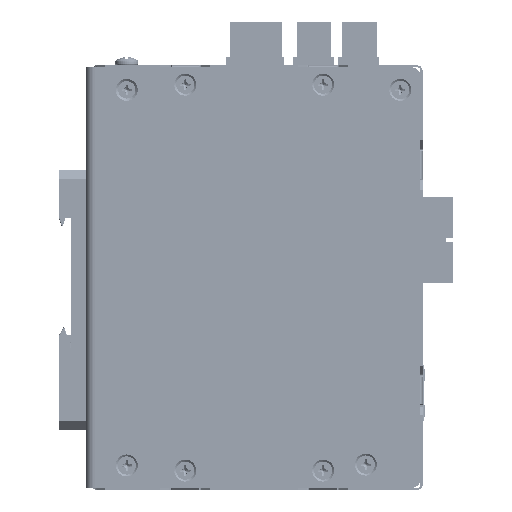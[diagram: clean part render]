
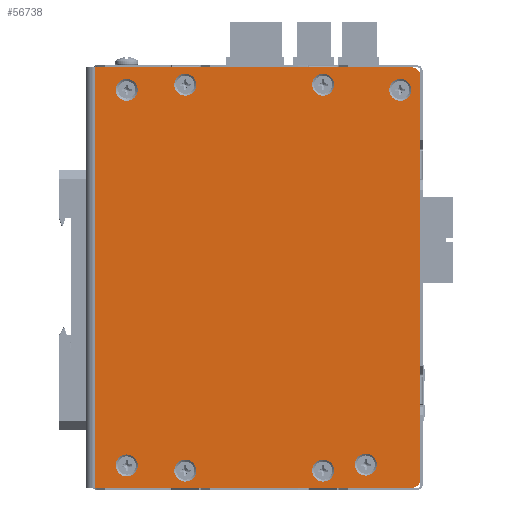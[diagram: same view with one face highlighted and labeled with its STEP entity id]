
A CAD part, left-side view. The second image highlights one B-rep face of the part: STEP entity #56738.
In plain terms, the highlighted planar face has unit normal (-1, 0, 0).
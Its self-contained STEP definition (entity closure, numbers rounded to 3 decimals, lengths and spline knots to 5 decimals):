
#2955=CIRCLE('',#61520,0.00324);
#2956=CIRCLE('',#61521,0.00324);
#2957=CIRCLE('',#61522,0.00324);
#2958=CIRCLE('',#61523,0.00324);
#2959=CIRCLE('',#61524,0.00324);
#2960=CIRCLE('',#61525,0.00324);
#2961=CIRCLE('',#61526,0.00324);
#2962=CIRCLE('',#61527,0.00324);
#2963=CIRCLE('',#61528,0.00254);
#2964=CIRCLE('',#61529,0.00254);
#8273=LINE('',#106608,#13625);
#8277=LINE('',#106617,#13629);
#8283=LINE('',#106631,#13635);
#8285=LINE('',#106653,#13637);
#13625=VECTOR('',#74817,1.);
#13629=VECTOR('',#74823,1.);
#13635=VECTOR('',#74831,1.);
#13637=VECTOR('',#74855,1.);
#28867=ORIENTED_EDGE('',*,*,#37388,.F.);
#28868=ORIENTED_EDGE('',*,*,#37389,.F.);
#28869=ORIENTED_EDGE('',*,*,#37390,.F.);
#28870=ORIENTED_EDGE('',*,*,#37391,.F.);
#28871=ORIENTED_EDGE('',*,*,#37392,.F.);
#28872=ORIENTED_EDGE('',*,*,#37393,.F.);
#28873=ORIENTED_EDGE('',*,*,#37394,.F.);
#28874=ORIENTED_EDGE('',*,*,#37395,.F.);
#28875=ORIENTED_EDGE('',*,*,#37386,.F.);
#28876=ORIENTED_EDGE('',*,*,#37396,.T.);
#28877=ORIENTED_EDGE('',*,*,#37376,.T.);
#28878=ORIENTED_EDGE('',*,*,#37397,.T.);
#28879=ORIENTED_EDGE('',*,*,#37380,.T.);
#28880=ORIENTED_EDGE('',*,*,#37398,.F.);
#37376=EDGE_CURVE('',#42985,#42986,#8273,.T.);
#37380=EDGE_CURVE('',#42989,#42990,#8277,.T.);
#37386=EDGE_CURVE('',#42995,#42996,#8283,.T.);
#37388=EDGE_CURVE('',#42997,#42997,#2955,.T.);
#37389=EDGE_CURVE('',#42998,#42998,#2956,.T.);
#37390=EDGE_CURVE('',#42999,#42999,#2957,.T.);
#37391=EDGE_CURVE('',#43000,#43000,#2958,.T.);
#37392=EDGE_CURVE('',#43001,#43001,#2959,.T.);
#37393=EDGE_CURVE('',#43002,#43002,#2960,.T.);
#37394=EDGE_CURVE('',#43003,#43003,#2961,.T.);
#37395=EDGE_CURVE('',#43004,#43004,#2962,.T.);
#37396=EDGE_CURVE('',#42995,#42985,#2963,.T.);
#37397=EDGE_CURVE('',#42986,#42989,#2964,.T.);
#37398=EDGE_CURVE('',#42996,#42990,#8285,.F.);
#42985=VERTEX_POINT('',#106609);
#42986=VERTEX_POINT('',#106610);
#42989=VERTEX_POINT('',#106618);
#42990=VERTEX_POINT('',#106619);
#42995=VERTEX_POINT('',#106630);
#42996=VERTEX_POINT('',#106632);
#42997=VERTEX_POINT('',#106636);
#42998=VERTEX_POINT('',#106638);
#42999=VERTEX_POINT('',#106640);
#43000=VERTEX_POINT('',#106642);
#43001=VERTEX_POINT('',#106644);
#43002=VERTEX_POINT('',#106646);
#43003=VERTEX_POINT('',#106648);
#43004=VERTEX_POINT('',#106650);
#47874=EDGE_LOOP('',(#28867));
#47875=EDGE_LOOP('',(#28868));
#47876=EDGE_LOOP('',(#28869));
#47877=EDGE_LOOP('',(#28870));
#47878=EDGE_LOOP('',(#28871));
#47879=EDGE_LOOP('',(#28872));
#47880=EDGE_LOOP('',(#28873));
#47881=EDGE_LOOP('',(#28874));
#47882=EDGE_LOOP('',(#28875,#28876,#28877,#28878,#28879,#28880));
#51800=FACE_BOUND('',#47874,.T.);
#51801=FACE_BOUND('',#47875,.T.);
#51802=FACE_BOUND('',#47876,.T.);
#51803=FACE_BOUND('',#47877,.T.);
#51804=FACE_BOUND('',#47878,.T.);
#51805=FACE_BOUND('',#47879,.T.);
#51806=FACE_BOUND('',#47880,.T.);
#51807=FACE_BOUND('',#47881,.T.);
#51808=FACE_BOUND('',#47882,.T.);
#53805=PLANE('',#61519);
#56738=ADVANCED_FACE('',(#51800,#51801,#51802,#51803,#51804,#51805,#51806,
#51807,#51808),#53805,.T.);
#61519=AXIS2_PLACEMENT_3D('',#106634,#74833,#74834);
#61520=AXIS2_PLACEMENT_3D('',#106635,#74835,#74836);
#61521=AXIS2_PLACEMENT_3D('',#106637,#74837,#74838);
#61522=AXIS2_PLACEMENT_3D('',#106639,#74839,#74840);
#61523=AXIS2_PLACEMENT_3D('',#106641,#74841,#74842);
#61524=AXIS2_PLACEMENT_3D('',#106643,#74843,#74844);
#61525=AXIS2_PLACEMENT_3D('',#106645,#74845,#74846);
#61526=AXIS2_PLACEMENT_3D('',#106647,#74847,#74848);
#61527=AXIS2_PLACEMENT_3D('',#106649,#74849,#74850);
#61528=AXIS2_PLACEMENT_3D('',#106651,#74851,#74852);
#61529=AXIS2_PLACEMENT_3D('',#106652,#74853,#74854);
#74817=DIRECTION('',(0.,0.,1.));
#74823=DIRECTION('',(0.,1.,0.));
#74831=DIRECTION('',(0.,1.,0.));
#74833=DIRECTION('',(-1.,0.,0.));
#74834=DIRECTION('',(0.,0.,1.));
#74835=DIRECTION('',(-1.,0.,0.));
#74836=DIRECTION('',(0.,0.,1.));
#74837=DIRECTION('',(-1.,0.,0.));
#74838=DIRECTION('',(0.,0.,1.));
#74839=DIRECTION('',(-1.,0.,0.));
#74840=DIRECTION('',(0.,0.,1.));
#74841=DIRECTION('',(-1.,0.,0.));
#74842=DIRECTION('',(0.,0.,1.));
#74843=DIRECTION('',(-1.,0.,0.));
#74844=DIRECTION('',(0.,0.,1.));
#74845=DIRECTION('',(-1.,0.,0.));
#74846=DIRECTION('',(0.,0.,1.));
#74847=DIRECTION('',(-1.,0.,0.));
#74848=DIRECTION('',(0.,0.,1.));
#74849=DIRECTION('',(-1.,0.,0.));
#74850=DIRECTION('',(0.,0.,1.));
#74851=DIRECTION('',(-1.,0.,0.));
#74852=DIRECTION('',(0.,0.,1.));
#74853=DIRECTION('',(-1.,0.,0.));
#74854=DIRECTION('',(0.,0.,1.));
#74855=DIRECTION('',(0.,0.,-1.));
#106608=CARTESIAN_POINT('',(-0.01524,-0.09703,0.));
#106609=CARTESIAN_POINT('',(-0.01524,-0.09703,-0.05944));
#106610=CARTESIAN_POINT('',(-0.01524,-0.09703,0.05944));
#106617=CARTESIAN_POINT('',(-0.01524,-0.09703,0.06198));
#106618=CARTESIAN_POINT('',(-0.01524,-0.09449,0.06198));
#106619=CARTESIAN_POINT('',(-0.01524,-0.00102,0.06198));
#106630=CARTESIAN_POINT('',(-0.01524,-0.09449,-0.06198));
#106631=CARTESIAN_POINT('',(-0.01524,-0.09703,-0.06198));
#106632=CARTESIAN_POINT('',(-0.01524,-0.00102,-0.06198));
#106634=CARTESIAN_POINT('',(-0.01524,-0.09703,0.));
#106635=CARTESIAN_POINT('',(-0.01524,-0.02769,0.0569));
#106636=CARTESIAN_POINT('',(-0.01524,-0.02769,0.06013));
#106637=CARTESIAN_POINT('',(-0.01524,-0.06833,0.0569));
#106638=CARTESIAN_POINT('',(-0.01524,-0.06833,0.06013));
#106639=CARTESIAN_POINT('',(-0.01524,-0.09106,0.05537));
#106640=CARTESIAN_POINT('',(-0.01524,-0.09106,0.05861));
#106641=CARTESIAN_POINT('',(-0.01524,-0.0809,-0.05512));
#106642=CARTESIAN_POINT('',(-0.01524,-0.0809,-0.05188));
#106643=CARTESIAN_POINT('',(-0.01524,-0.06833,-0.0569));
#106644=CARTESIAN_POINT('',(-0.01524,-0.06833,-0.05366));
#106645=CARTESIAN_POINT('',(-0.01524,-0.02769,-0.0569));
#106646=CARTESIAN_POINT('',(-0.01524,-0.02769,-0.05366));
#106647=CARTESIAN_POINT('',(-0.01524,-0.01041,-0.05537));
#106648=CARTESIAN_POINT('',(-0.01524,-0.01041,-0.05213));
#106649=CARTESIAN_POINT('',(-0.01524,-0.01041,0.05537));
#106650=CARTESIAN_POINT('',(-0.01524,-0.01041,0.05861));
#106651=CARTESIAN_POINT('',(-0.01524,-0.09449,-0.05944));
#106652=CARTESIAN_POINT('',(-0.01524,-0.09449,0.05944));
#106653=CARTESIAN_POINT('',(-0.01524,-0.00102,0.));
